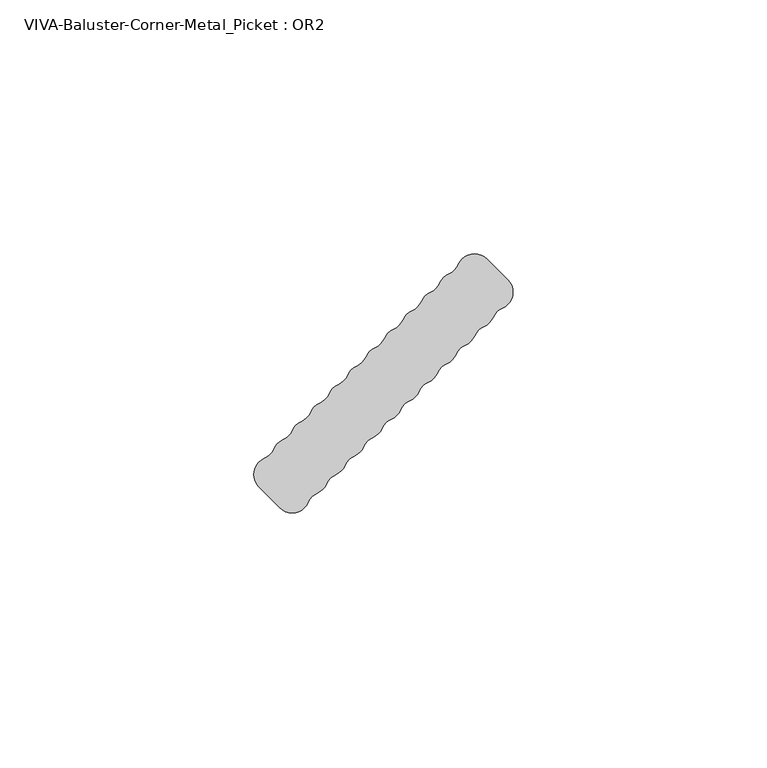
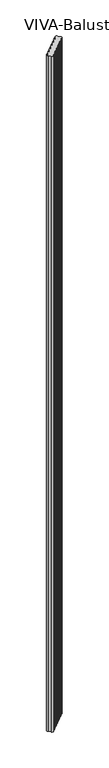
"""IFC4 building model written with IfcOpenShell, lengths in millimetres: railing geometry, VIVA-Baluster-Corner-Metal_Picket : OR2."""

from ifc_helpers import new_model, si_unit, frame, origin, place, context, project, spatial, polyline, circle_curve, source, transform, mapped, element, save
from ifc_brep_helpers import plane_surface, cylinder_surface, revolved_surface, advanced_brep


def viva_baluster_corner_metal_picket_or2_d11bb3fe(model_context):
    return source(origin(), model_context, "Body", "AdvancedBrep", [
        advanced_brep(
        [(54.5821964, 285.0019365, 1219.2), (48.9877423, 283.9151586, 1219.2), (47.16774, 282.0951563, 1219.2), (45.3477377, 280.275154, 1219.2), (43.5277353, 278.4551517, 1219.2), (41.707733, 276.6351493, 1219.2), (39.8877307, 274.815147, 1219.2), (38.0677284, 272.9951447, 1219.2), (36.2477261, 271.1751424, 1219.2), (34.4277238, 269.3551401, 1219.2), (32.6077214, 267.5351378, 1219.2), (30.7877191, 265.7151354, 1219.2), (28.9677168, 263.8951331, 1219.2), (27.1477145, 262.0751308, 1219.2), (25.3277122, 260.2551285, 1219.2), (23.5077099, 258.4351262, 1219.2), (21.6877075, 256.6151239, 1219.2), (19.8677052, 254.7951215, 1219.2), (18.0477029, 252.9751192, 1219.2), (16.2277006, 251.1551169, 1219.2), (14.4076983, 249.3351146, 1219.2), (12.587696, 247.5151123, 1219.2), (10.7676936, 245.69511, 1219.2), (9.6809158, 240.1006559, 1219.2), (13.7999423, 235.9816294, 1219.2), (19.3943964, 237.0684072, 1219.2), (21.2143987, 238.8884095, 1219.2), (23.034401, 240.7084119, 1219.2), (24.8544033, 242.5284142, 1219.2), (26.6744056, 244.3484165, 1219.2), (28.494408, 246.1684188, 1219.2), (30.3144103, 247.9884211, 1219.2), (32.1344126, 249.8084234, 1219.2), (33.9544149, 251.6284258, 1219.2), (35.7744172, 253.4484281, 1219.2), (37.5944195, 255.2684304, 1219.2), (39.4144219, 257.0884327, 1219.2), (41.2344242, 258.908435, 1219.2), (43.0544265, 260.7284373, 1219.2), (44.8744288, 262.5484397, 1219.2), (46.6944311, 264.368442, 1219.2), (48.5144334, 266.1884443, 1219.2), (50.3344358, 268.0084466, 1219.2), (52.1544381, 269.8284489, 1219.2), (53.9744404, 271.6484513, 1219.2), (55.7944427, 273.4684536, 1219.2), (57.614445, 275.2884559, 1219.2), (58.7012229, 280.88291, 1219.2), (54.5821964, 285.0019365, -245.8945017), (58.7012229, 280.88291, -245.8945017), (57.614445, 275.2884559, -245.8945017), (55.7944427, 273.4684536, -245.8945017), (53.9744404, 271.6484513, -245.8945017), (52.1544381, 269.8284489, -245.8945017), (50.3344358, 268.0084466, -245.8945017), (48.5144334, 266.1884443, -245.8945017), (46.6944311, 264.368442, -245.8945017), (44.8744288, 262.5484397, -245.8945017), (43.0544265, 260.7284373, -245.8945017), (41.2344242, 258.908435, -245.8945017), (39.4144219, 257.0884327, -245.8945017), (37.5944195, 255.2684304, -245.8945017), (35.7744172, 253.4484281, -245.8945017), (33.9544149, 251.6284258, -245.8945017), (32.1344126, 249.8084234, -245.8945017), (30.3144103, 247.9884211, -245.8945017), (28.494408, 246.1684188, -245.8945017), (26.6744056, 244.3484165, -245.8945017), (24.8544033, 242.5284142, -245.8945017), (23.034401, 240.7084119, -245.8945017), (21.2143987, 238.8884095, -245.8945017), (19.3943964, 237.0684072, -245.8945017), (13.7999423, 235.9816294, -245.8945017), (9.6809158, 240.1006559, -245.8945017), (10.7676936, 245.69511, -245.8945017), (12.587696, 247.5151123, -245.8945017), (14.4076983, 249.3351146, -245.8945017), (16.2277006, 251.1551169, -245.8945017), (18.0477029, 252.9751192, -245.8945017), (19.8677052, 254.7951215, -245.8945017), (21.6877075, 256.6151239, -245.8945017), (23.5077099, 258.4351262, -245.8945017), (25.3277122, 260.2551285, -245.8945017), (27.1477145, 262.0751308, -245.8945017), (28.9677168, 263.8951331, -245.8945017), (30.7877191, 265.7151354, -245.8945017), (32.6077214, 267.5351378, -245.8945017), (34.4277238, 269.3551401, -245.8945017), (36.2477261, 271.1751424, -245.8945017), (38.0677284, 272.9951447, -245.8945017), (39.8877307, 274.815147, -245.8945017), (41.707733, 276.6351493, -245.8945017), (43.5277353, 278.4551517, -245.8945017), (45.3477377, 280.275154, -245.8945017), (47.16774, 282.0951563, -245.8945017), (48.9877423, 283.9151586, -245.8945017)],
        [
            (0, 1, circle_curve(frame((52.1515816, 282.5713217, 1219.2), z_axis=(0.0, 0.0, 1.0), x_axis=(1.0, 0.0, 0.0)), 3.4374084)),
            (1, 2, circle_curve(frame((45.823903, 285.2589956, 1219.2), z_axis=(0.0, 0.0, -1.0), x_axis=(1.0, 0.0, 0.0)), 3.4374084)),
            (2, 3, circle_curve(frame((48.5115769, 278.931317, 1219.2), z_axis=(0.0, 0.0, 1.0), x_axis=(1.0, 0.0, 0.0)), 3.4374084)),
            (3, 4, circle_curve(frame((42.1838984, 281.6189909, 1219.2), z_axis=(0.0, 0.0, -1.0), x_axis=(1.0, 0.0, 0.0)), 3.4374084)),
            (4, 5, circle_curve(frame((44.8715723, 275.2913124, 1219.2), z_axis=(0.0, 0.0, 1.0), x_axis=(1.0, 0.0, 0.0)), 3.4374084)),
            (5, 6, circle_curve(frame((38.5438938, 277.9789863, 1219.2), z_axis=(0.0, 0.0, -1.0), x_axis=(1.0, 0.0, 0.0)), 3.4374084)),
            (6, 7, circle_curve(frame((41.2315677, 271.6513078, 1219.2), z_axis=(0.0, 0.0, 1.0), x_axis=(1.0, 0.0, 0.0)), 3.4374084)),
            (7, 8, circle_curve(frame((34.9038891, 274.3389817, 1219.2), z_axis=(0.0, 0.0, -1.0), x_axis=(1.0, 0.0, 0.0)), 3.4374084)),
            (8, 9, circle_curve(frame((37.591563, 268.0113031, 1219.2), z_axis=(0.0, 0.0, 1.0), x_axis=(1.0, 0.0, 0.0)), 3.4374084)),
            (9, 10, circle_curve(frame((31.2638845, 270.698977, 1219.2), z_axis=(0.0, 0.0, -1.0), x_axis=(1.0, 0.0, 0.0)), 3.4374084)),
            (10, 11, circle_curve(frame((33.9515584, 264.3712985, 1219.2), z_axis=(0.0, 0.0, 1.0), x_axis=(1.0, 0.0, 0.0)), 3.4374084)),
            (11, 12, circle_curve(frame((27.6238798, 267.0589724, 1219.2), z_axis=(0.0, 0.0, -1.0), x_axis=(1.0, 0.0, 0.0)), 3.4374084)),
            (12, 13, circle_curve(frame((30.3115538, 260.7312939, 1219.2), z_axis=(0.0, 0.0, 1.0), x_axis=(1.0, 0.0, 0.0)), 3.4374084)),
            (13, 14, circle_curve(frame((23.9838752, 263.4189678, 1219.2), z_axis=(0.0, 0.0, -1.0), x_axis=(1.0, 0.0, 0.0)), 3.4374084)),
            (14, 15, circle_curve(frame((26.6715491, 257.0912892, 1219.2), z_axis=(0.0, 0.0, 1.0), x_axis=(1.0, 0.0, 0.0)), 3.4374084)),
            (15, 16, circle_curve(frame((20.3438706, 259.7789631, 1219.2), z_axis=(0.0, 0.0, -1.0), x_axis=(1.0, 0.0, 0.0)), 3.4374084)),
            (16, 17, circle_curve(frame((23.0315445, 253.4512846, 1219.2), z_axis=(0.0, 0.0, 1.0), x_axis=(1.0, 0.0, 0.0)), 3.4374084)),
            (17, 18, circle_curve(frame((16.7038659, 256.1389585, 1219.2), z_axis=(0.0, 0.0, -1.0), x_axis=(1.0, 0.0, 0.0)), 3.4374084)),
            (18, 19, circle_curve(frame((19.3915399, 249.8112799, 1219.2), z_axis=(0.0, 0.0, 1.0), x_axis=(1.0, 0.0, 0.0)), 3.4374084)),
            (19, 20, circle_curve(frame((13.0638613, 252.4989539, 1219.2), z_axis=(0.0, 0.0, -1.0), x_axis=(1.0, 0.0, 0.0)), 3.4374084)),
            (20, 21, circle_curve(frame((15.7515352, 246.1712753, 1219.2), z_axis=(0.0, 0.0, 1.0), x_axis=(1.0, 0.0, 0.0)), 3.4374084)),
            (21, 22, circle_curve(frame((9.4238567, 248.8589492, 1219.2), z_axis=(0.0, 0.0, -1.0), x_axis=(1.0, 0.0, 0.0)), 3.4374084)),
            (22, 23, circle_curve(frame((12.1115306, 242.5312707, 1219.2), z_axis=(0.0, 0.0, 1.0), x_axis=(1.0, 0.0, 0.0)), 3.4374084)),
            (23, 24),
            (24, 25, circle_curve(frame((16.2305571, 238.4122442, 1219.2), z_axis=(0.0, 0.0, 1.0), x_axis=(1.0, 0.0, 0.0)), 3.4374084)),
            (25, 26, circle_curve(frame((22.5582356, 235.7245703, 1219.2), z_axis=(0.0, 0.0, -1.0), x_axis=(1.0, 0.0, 0.0)), 3.4374084)),
            (26, 27, circle_curve(frame((19.8705617, 242.0522488, 1219.2), z_axis=(0.0, 0.0, 1.0), x_axis=(1.0, 0.0, 0.0)), 3.4374084)),
            (27, 28, circle_curve(frame((26.1982403, 239.3645749, 1219.2), z_axis=(0.0, 0.0, -1.0), x_axis=(1.0, 0.0, 0.0)), 3.4374084)),
            (28, 29, circle_curve(frame((23.5105664, 245.6922535, 1219.2), z_axis=(0.0, 0.0, 1.0), x_axis=(1.0, 0.0, 0.0)), 3.4374084)),
            (29, 30, circle_curve(frame((29.8382449, 243.0045795, 1219.2), z_axis=(0.0, 0.0, -1.0), x_axis=(1.0, 0.0, 0.0)), 3.4374084)),
            (30, 31, circle_curve(frame((27.150571, 249.3322581, 1219.2), z_axis=(0.0, 0.0, 1.0), x_axis=(1.0, 0.0, 0.0)), 3.4374084)),
            (31, 32, circle_curve(frame((33.4782495, 246.6445842, 1219.2), z_axis=(0.0, 0.0, -1.0), x_axis=(1.0, 0.0, 0.0)), 3.4374084)),
            (32, 33, circle_curve(frame((30.7905756, 252.9722627, 1219.2), z_axis=(0.0, 0.0, 1.0), x_axis=(1.0, 0.0, 0.0)), 3.4374084)),
            (33, 34, circle_curve(frame((37.1182542, 250.2845888, 1219.2), z_axis=(0.0, 0.0, -1.0), x_axis=(1.0, 0.0, 0.0)), 3.4374084)),
            (34, 35, circle_curve(frame((34.4305803, 256.6122674, 1219.2), z_axis=(0.0, 0.0, 1.0), x_axis=(1.0, 0.0, 0.0)), 3.4374084)),
            (35, 36, circle_curve(frame((40.7582588, 253.9245934, 1219.2), z_axis=(0.0, 0.0, -1.0), x_axis=(1.0, 0.0, 0.0)), 3.4374084)),
            (36, 37, circle_curve(frame((38.0705849, 260.252272, 1219.2), z_axis=(0.0, 0.0, 1.0), x_axis=(1.0, 0.0, 0.0)), 3.4374084)),
            (37, 38, circle_curve(frame((44.3982634, 257.5645981, 1219.2), z_axis=(0.0, 0.0, -1.0), x_axis=(1.0, 0.0, 0.0)), 3.4374084)),
            (38, 39, circle_curve(frame((41.7105895, 263.8922766, 1219.2), z_axis=(0.0, 0.0, 1.0), x_axis=(1.0, 0.0, 0.0)), 3.4374084)),
            (39, 40, circle_curve(frame((48.0382681, 261.2046027, 1219.2), z_axis=(0.0, 0.0, -1.0), x_axis=(1.0, 0.0, 0.0)), 3.4374084)),
            (40, 41, circle_curve(frame((45.3505942, 267.5322813, 1219.2), z_axis=(0.0, 0.0, 1.0), x_axis=(1.0, 0.0, 0.0)), 3.4374084)),
            (41, 42, circle_curve(frame((51.6782727, 264.8446073, 1219.2), z_axis=(0.0, 0.0, -1.0), x_axis=(1.0, 0.0, 0.0)), 3.4374084)),
            (42, 43, circle_curve(frame((48.9905988, 271.1722859, 1219.2), z_axis=(0.0, 0.0, 1.0), x_axis=(1.0, 0.0, 0.0)), 3.4374084)),
            (43, 44, circle_curve(frame((55.3182774, 268.484612, 1219.2), z_axis=(0.0, 0.0, -1.0), x_axis=(1.0, 0.0, 0.0)), 3.4374084)),
            (44, 45, circle_curve(frame((52.6306034, 274.8122905, 1219.2), z_axis=(0.0, 0.0, 1.0), x_axis=(1.0, 0.0, 0.0)), 3.4374084)),
            (45, 46, circle_curve(frame((58.958282, 272.1246166, 1219.2), z_axis=(0.0, 0.0, -1.0), x_axis=(1.0, 0.0, 0.0)), 3.4374084)),
            (46, 47, circle_curve(frame((56.2706081, 278.4522952, 1219.2), z_axis=(0.0, 0.0, 1.0), x_axis=(1.0, 0.0, 0.0)), 3.4374084)),
            (47, 0),
            (48, 49),
            (49, 50, circle_curve(frame((56.2706081, 278.4522952, -245.8945017), z_axis=(0.0, 0.0, -1.0), x_axis=(1.0, 0.0, 0.0)), 3.4374084)),
            (50, 51, circle_curve(frame((58.958282, 272.1246166, -245.8945017), z_axis=(0.0, 0.0, 1.0), x_axis=(1.0, 0.0, 0.0)), 3.4374084)),
            (51, 52, circle_curve(frame((52.6306034, 274.8122905, -245.8945017), z_axis=(0.0, 0.0, -1.0), x_axis=(1.0, 0.0, 0.0)), 3.4374084)),
            (52, 53, circle_curve(frame((55.3182774, 268.484612, -245.8945017), z_axis=(0.0, 0.0, 1.0), x_axis=(1.0, 0.0, 0.0)), 3.4374084)),
            (53, 54, circle_curve(frame((48.9905988, 271.1722859, -245.8945017), z_axis=(0.0, 0.0, -1.0), x_axis=(1.0, 0.0, 0.0)), 3.4374084)),
            (54, 55, circle_curve(frame((51.6782727, 264.8446073, -245.8945017), z_axis=(0.0, 0.0, 1.0), x_axis=(1.0, 0.0, 0.0)), 3.4374084)),
            (55, 56, circle_curve(frame((45.3505942, 267.5322813, -245.8945017), z_axis=(0.0, 0.0, -1.0), x_axis=(1.0, 0.0, 0.0)), 3.4374084)),
            (56, 57, circle_curve(frame((48.0382681, 261.2046027, -245.8945017), z_axis=(0.0, 0.0, 1.0), x_axis=(1.0, 0.0, 0.0)), 3.4374084)),
            (57, 58, circle_curve(frame((41.7105895, 263.8922766, -245.8945017), z_axis=(0.0, 0.0, -1.0), x_axis=(1.0, 0.0, 0.0)), 3.4374084)),
            (58, 59, circle_curve(frame((44.3982634, 257.5645981, -245.8945017), z_axis=(0.0, 0.0, 1.0), x_axis=(1.0, 0.0, 0.0)), 3.4374084)),
            (59, 60, circle_curve(frame((38.0705849, 260.252272, -245.8945017), z_axis=(0.0, 0.0, -1.0), x_axis=(1.0, 0.0, 0.0)), 3.4374084)),
            (60, 61, circle_curve(frame((40.7582588, 253.9245934, -245.8945017), z_axis=(0.0, 0.0, 1.0), x_axis=(1.0, 0.0, 0.0)), 3.4374084)),
            (61, 62, circle_curve(frame((34.4305803, 256.6122674, -245.8945017), z_axis=(0.0, 0.0, -1.0), x_axis=(1.0, 0.0, 0.0)), 3.4374084)),
            (62, 63, circle_curve(frame((37.1182542, 250.2845888, -245.8945017), z_axis=(0.0, 0.0, 1.0), x_axis=(1.0, 0.0, 0.0)), 3.4374084)),
            (63, 64, circle_curve(frame((30.7905756, 252.9722627, -245.8945017), z_axis=(0.0, 0.0, -1.0), x_axis=(1.0, 0.0, 0.0)), 3.4374084)),
            (64, 65, circle_curve(frame((33.4782495, 246.6445842, -245.8945017), z_axis=(0.0, 0.0, 1.0), x_axis=(1.0, 0.0, 0.0)), 3.4374084)),
            (65, 66, circle_curve(frame((27.150571, 249.3322581, -245.8945017), z_axis=(0.0, 0.0, -1.0), x_axis=(1.0, 0.0, 0.0)), 3.4374084)),
            (66, 67, circle_curve(frame((29.8382449, 243.0045795, -245.8945017), z_axis=(0.0, 0.0, 1.0), x_axis=(1.0, 0.0, 0.0)), 3.4374084)),
            (67, 68, circle_curve(frame((23.5105664, 245.6922535, -245.8945017), z_axis=(0.0, 0.0, -1.0), x_axis=(1.0, 0.0, 0.0)), 3.4374084)),
            (68, 69, circle_curve(frame((26.1982403, 239.3645749, -245.8945017), z_axis=(0.0, 0.0, 1.0), x_axis=(1.0, 0.0, 0.0)), 3.4374084)),
            (69, 70, circle_curve(frame((19.8705617, 242.0522488, -245.8945017), z_axis=(0.0, 0.0, -1.0), x_axis=(1.0, 0.0, 0.0)), 3.4374084)),
            (70, 71, circle_curve(frame((22.5582356, 235.7245703, -245.8945017), z_axis=(0.0, 0.0, 1.0), x_axis=(1.0, 0.0, 0.0)), 3.4374084)),
            (71, 72, circle_curve(frame((16.2305571, 238.4122442, -245.8945017), z_axis=(0.0, 0.0, -1.0), x_axis=(1.0, 0.0, 0.0)), 3.4374084)),
            (72, 73),
            (73, 74, circle_curve(frame((12.1115306, 242.5312707, -245.8945017), z_axis=(0.0, 0.0, -1.0), x_axis=(1.0, 0.0, 0.0)), 3.4374084)),
            (74, 75, circle_curve(frame((9.4238567, 248.8589492, -245.8945017), z_axis=(0.0, 0.0, 1.0), x_axis=(1.0, 0.0, 0.0)), 3.4374084)),
            (75, 76, circle_curve(frame((15.7515352, 246.1712753, -245.8945017), z_axis=(0.0, 0.0, -1.0), x_axis=(1.0, 0.0, 0.0)), 3.4374084)),
            (76, 77, circle_curve(frame((13.0638613, 252.4989539, -245.8945017), z_axis=(0.0, 0.0, 1.0), x_axis=(1.0, 0.0, 0.0)), 3.4374084)),
            (77, 78, circle_curve(frame((19.3915399, 249.8112799, -245.8945017), z_axis=(0.0, 0.0, -1.0), x_axis=(1.0, 0.0, 0.0)), 3.4374084)),
            (78, 79, circle_curve(frame((16.7038659, 256.1389585, -245.8945017), z_axis=(0.0, 0.0, 1.0), x_axis=(1.0, 0.0, 0.0)), 3.4374084)),
            (79, 80, circle_curve(frame((23.0315445, 253.4512846, -245.8945017), z_axis=(0.0, 0.0, -1.0), x_axis=(1.0, 0.0, 0.0)), 3.4374084)),
            (80, 81, circle_curve(frame((20.3438706, 259.7789631, -245.8945017), z_axis=(0.0, 0.0, 1.0), x_axis=(1.0, 0.0, 0.0)), 3.4374084)),
            (81, 82, circle_curve(frame((26.6715491, 257.0912892, -245.8945017), z_axis=(0.0, 0.0, -1.0), x_axis=(1.0, 0.0, 0.0)), 3.4374084)),
            (82, 83, circle_curve(frame((23.9838752, 263.4189678, -245.8945017), z_axis=(0.0, 0.0, 1.0), x_axis=(1.0, 0.0, 0.0)), 3.4374084)),
            (83, 84, circle_curve(frame((30.3115538, 260.7312939, -245.8945017), z_axis=(0.0, 0.0, -1.0), x_axis=(1.0, 0.0, 0.0)), 3.4374084)),
            (84, 85, circle_curve(frame((27.6238798, 267.0589724, -245.8945017), z_axis=(0.0, 0.0, 1.0), x_axis=(1.0, 0.0, 0.0)), 3.4374084)),
            (85, 86, circle_curve(frame((33.9515584, 264.3712985, -245.8945017), z_axis=(0.0, 0.0, -1.0), x_axis=(1.0, 0.0, 0.0)), 3.4374084)),
            (86, 87, circle_curve(frame((31.2638845, 270.698977, -245.8945017), z_axis=(0.0, 0.0, 1.0), x_axis=(1.0, 0.0, 0.0)), 3.4374084)),
            (87, 88, circle_curve(frame((37.591563, 268.0113031, -245.8945017), z_axis=(0.0, 0.0, -1.0), x_axis=(1.0, 0.0, 0.0)), 3.4374084)),
            (88, 89, circle_curve(frame((34.9038891, 274.3389817, -245.8945017), z_axis=(0.0, 0.0, 1.0), x_axis=(1.0, 0.0, 0.0)), 3.4374084)),
            (89, 90, circle_curve(frame((41.2315677, 271.6513078, -245.8945017), z_axis=(0.0, 0.0, -1.0), x_axis=(1.0, 0.0, 0.0)), 3.4374084)),
            (90, 91, circle_curve(frame((38.5438938, 277.9789863, -245.8945017), z_axis=(0.0, 0.0, 1.0), x_axis=(1.0, 0.0, 0.0)), 3.4374084)),
            (91, 92, circle_curve(frame((44.8715723, 275.2913124, -245.8945017), z_axis=(0.0, 0.0, -1.0), x_axis=(1.0, 0.0, 0.0)), 3.4374084)),
            (92, 93, circle_curve(frame((42.1838984, 281.6189909, -245.8945017), z_axis=(0.0, 0.0, 1.0), x_axis=(1.0, 0.0, 0.0)), 3.4374084)),
            (93, 94, circle_curve(frame((48.5115769, 278.931317, -245.8945017), z_axis=(0.0, 0.0, -1.0), x_axis=(1.0, 0.0, 0.0)), 3.4374084)),
            (94, 95, circle_curve(frame((45.823903, 285.2589956, -245.8945017), z_axis=(0.0, 0.0, 1.0), x_axis=(1.0, 0.0, 0.0)), 3.4374084)),
            (95, 48, circle_curve(frame((52.1515816, 282.5713217, -245.8945017), z_axis=(0.0, 0.0, -1.0), x_axis=(1.0, 0.0, 0.0)), 3.4374084)),
            (0, 48),
            (95, 1),
            (94, 2),
            (93, 3),
            (92, 4),
            (91, 5),
            (90, 6),
            (89, 7),
            (88, 8),
            (87, 9),
            (86, 10),
            (85, 11),
            (84, 12),
            (83, 13),
            (82, 14),
            (81, 15),
            (80, 16),
            (79, 17),
            (78, 18),
            (77, 19),
            (76, 20),
            (75, 21),
            (74, 22),
            (73, 23),
            (72, 24),
            (71, 25),
            (70, 26),
            (69, 27),
            (68, 28),
            (67, 29),
            (66, 30),
            (65, 31),
            (64, 32),
            (63, 33),
            (62, 34),
            (61, 35),
            (60, 36),
            (59, 37),
            (58, 38),
            (57, 39),
            (56, 40),
            (55, 41),
            (54, 42),
            (53, 43),
            (52, 44),
            (51, 45),
            (50, 46),
            (49, 47),
        ],
        [
            plane_surface(frame((55.58899, 282.5713217, 1219.2), z_axis=(0.0, 0.0, 1.0), x_axis=(0.0, 1.0, 0.0))),
            plane_surface(frame((55.58899, 282.5713217, -245.8945017), z_axis=(0.0, 0.0, -1.0), x_axis=(0.0, -1.0, 0.0))),
            cylinder_surface(frame((52.1515816, 282.5713217, -245.8945017), z_axis=(0.0, 0.0, 1.0), x_axis=(1.0, 0.0, 0.0)), 3.4374084),
            revolved_surface(polyline([(49.261311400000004, 285.2589956, -245.8945017), (49.261311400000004, 285.2589956, 1219.2)]), (45.823903, 285.2589956, -245.8945017), (0.0, 0.0, -1.0)),
            cylinder_surface(frame((48.5115769, 278.931317, -245.8945017), z_axis=(0.0, 0.0, 1.0), x_axis=(1.0, 0.0, 0.0)), 3.4374084),
            revolved_surface(polyline([(45.6213068, 281.6189909, -245.8945017), (45.6213068, 281.6189909, 1219.2)]), (42.1838984, 281.6189909, -245.8945017), (0.0, 0.0, -1.0)),
            cylinder_surface(frame((44.8715723, 275.2913124, -245.8945017), z_axis=(0.0, 0.0, 1.0), x_axis=(1.0, 0.0, 0.0)), 3.4374084),
            revolved_surface(polyline([(41.9813022, 277.9789863, -245.8945017), (41.9813022, 277.9789863, 1219.2)]), (38.5438938, 277.9789863, -245.8945017), (0.0, 0.0, -1.0)),
            cylinder_surface(frame((41.2315677, 271.6513078, -245.8945017), z_axis=(0.0, 0.0, 1.0), x_axis=(1.0, 0.0, 0.0)), 3.4374084),
            revolved_surface(polyline([(38.3412975, 274.3389817, -245.8945017), (38.3412975, 274.3389817, 1219.2)]), (34.9038891, 274.3389817, -245.8945017), (0.0, 0.0, -1.0)),
            cylinder_surface(frame((37.591563, 268.0113031, -245.8945017), z_axis=(0.0, 0.0, 1.0), x_axis=(1.0, 0.0, 0.0)), 3.4374084),
            revolved_surface(polyline([(34.7012929, 270.698977, -245.8945017), (34.7012929, 270.698977, 1219.2)]), (31.2638845, 270.698977, -245.8945017), (0.0, 0.0, -1.0)),
            cylinder_surface(frame((33.9515584, 264.3712985, -245.8945017), z_axis=(0.0, 0.0, 1.0), x_axis=(1.0, 0.0, 0.0)), 3.4374084),
            revolved_surface(polyline([(31.0612882, 267.0589724, -245.8945017), (31.0612882, 267.0589724, 1219.2)]), (27.6238798, 267.0589724, -245.8945017), (0.0, 0.0, -1.0)),
            cylinder_surface(frame((30.3115538, 260.7312939, -245.8945017), z_axis=(0.0, 0.0, 1.0), x_axis=(1.0, 0.0, 0.0)), 3.4374084),
            revolved_surface(polyline([(27.4212836, 263.4189678, -245.8945017), (27.4212836, 263.4189678, 1219.2)]), (23.9838752, 263.4189678, -245.8945017), (0.0, 0.0, -1.0)),
            cylinder_surface(frame((26.6715491, 257.0912892, -245.8945017), z_axis=(0.0, 0.0, 1.0), x_axis=(1.0, 0.0, 0.0)), 3.4374084),
            revolved_surface(polyline([(23.781278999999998, 259.7789631, -245.8945017), (23.781278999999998, 259.7789631, 1219.2)]), (20.3438706, 259.7789631, -245.8945017), (0.0, 0.0, -1.0)),
            cylinder_surface(frame((23.0315445, 253.4512846, -245.8945017), z_axis=(0.0, 0.0, 1.0), x_axis=(1.0, 0.0, 0.0)), 3.4374084),
            revolved_surface(polyline([(20.1412743, 256.1389585, -245.8945017), (20.1412743, 256.1389585, 1219.2)]), (16.7038659, 256.1389585, -245.8945017), (0.0, 0.0, -1.0)),
            cylinder_surface(frame((19.3915399, 249.8112799, -245.8945017), z_axis=(0.0, 0.0, 1.0), x_axis=(1.0, 0.0, 0.0)), 3.4374084),
            revolved_surface(polyline([(16.501269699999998, 252.4989539, -245.8945017), (16.501269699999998, 252.4989539, 1219.2)]), (13.0638613, 252.4989539, -245.8945017), (0.0, 0.0, -1.0)),
            cylinder_surface(frame((15.7515352, 246.1712753, -245.8945017), z_axis=(0.0, 0.0, 1.0), x_axis=(1.0, 0.0, 0.0)), 3.4374084),
            revolved_surface(polyline([(12.8612651, 248.8589492, -245.8945017), (12.8612651, 248.8589492, 1219.2)]), (9.4238567, 248.8589492, -245.8945017), (0.0, 0.0, -1.0)),
            cylinder_surface(frame((12.1115306, 242.5312707, -245.8945017), z_axis=(0.0, 0.0, 1.0), x_axis=(1.0, 0.0, 0.0)), 3.4374084),
            plane_surface(frame((9.6809158, 240.1006559, 1219.2), z_axis=(-0.70710678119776, -0.7071067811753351, 0.0), x_axis=(0.0, 0.0, -1.0))),
            cylinder_surface(frame((16.2305571, 238.4122442, -245.8945017), z_axis=(0.0, 0.0, 1.0), x_axis=(1.0, 0.0, 0.0)), 3.4374084),
            revolved_surface(polyline([(25.995644, 235.7245703, -245.8945017), (25.995644, 235.7245703, 1219.2)]), (22.5582356, 235.7245703, -245.8945017), (0.0, 0.0, -1.0)),
            cylinder_surface(frame((19.8705617, 242.0522488, -245.8945017), z_axis=(0.0, 0.0, 1.0), x_axis=(1.0, 0.0, 0.0)), 3.4374084),
            revolved_surface(polyline([(29.635648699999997, 239.3645749, -245.8945017), (29.635648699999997, 239.3645749, 1219.2)]), (26.1982403, 239.3645749, -245.8945017), (0.0, 0.0, -1.0)),
            cylinder_surface(frame((23.5105664, 245.6922535, -245.8945017), z_axis=(0.0, 0.0, 1.0), x_axis=(1.0, 0.0, 0.0)), 3.4374084),
            revolved_surface(polyline([(33.2756533, 243.0045795, -245.8945017), (33.2756533, 243.0045795, 1219.2)]), (29.8382449, 243.0045795, -245.8945017), (0.0, 0.0, -1.0)),
            cylinder_surface(frame((27.150571, 249.3322581, -245.8945017), z_axis=(0.0, 0.0, 1.0), x_axis=(1.0, 0.0, 0.0)), 3.4374084),
            revolved_surface(polyline([(36.9156579, 246.6445842, -245.8945017), (36.9156579, 246.6445842, 1219.2)]), (33.4782495, 246.6445842, -245.8945017), (0.0, 0.0, -1.0)),
            cylinder_surface(frame((30.7905756, 252.9722627, -245.8945017), z_axis=(0.0, 0.0, 1.0), x_axis=(1.0, 0.0, 0.0)), 3.4374084),
            revolved_surface(polyline([(40.555662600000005, 250.2845888, -245.8945017), (40.555662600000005, 250.2845888, 1219.2)]), (37.1182542, 250.2845888, -245.8945017), (0.0, 0.0, -1.0)),
            cylinder_surface(frame((34.4305803, 256.6122674, -245.8945017), z_axis=(0.0, 0.0, 1.0), x_axis=(1.0, 0.0, 0.0)), 3.4374084),
            revolved_surface(polyline([(44.1956672, 253.9245934, -245.8945017), (44.1956672, 253.9245934, 1219.2)]), (40.7582588, 253.9245934, -245.8945017), (0.0, 0.0, -1.0)),
            cylinder_surface(frame((38.0705849, 260.252272, -245.8945017), z_axis=(0.0, 0.0, 1.0), x_axis=(1.0, 0.0, 0.0)), 3.4374084),
            revolved_surface(polyline([(47.8356718, 257.5645981, -245.8945017), (47.8356718, 257.5645981, 1219.2)]), (44.3982634, 257.5645981, -245.8945017), (0.0, 0.0, -1.0)),
            cylinder_surface(frame((41.7105895, 263.8922766, -245.8945017), z_axis=(0.0, 0.0, 1.0), x_axis=(1.0, 0.0, 0.0)), 3.4374084),
            revolved_surface(polyline([(51.475676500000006, 261.2046027, -245.8945017), (51.475676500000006, 261.2046027, 1219.2)]), (48.0382681, 261.2046027, -245.8945017), (0.0, 0.0, -1.0)),
            cylinder_surface(frame((45.3505942, 267.5322813, -245.8945017), z_axis=(0.0, 0.0, 1.0), x_axis=(1.0, 0.0, 0.0)), 3.4374084),
            revolved_surface(polyline([(55.1156811, 264.8446073, -245.8945017), (55.1156811, 264.8446073, 1219.2)]), (51.6782727, 264.8446073, -245.8945017), (0.0, 0.0, -1.0)),
            cylinder_surface(frame((48.9905988, 271.1722859, -245.8945017), z_axis=(0.0, 0.0, 1.0), x_axis=(1.0, 0.0, 0.0)), 3.4374084),
            revolved_surface(polyline([(58.7556858, 268.484612, -245.8945017), (58.7556858, 268.484612, 1219.2)]), (55.3182774, 268.484612, -245.8945017), (0.0, 0.0, -1.0)),
            cylinder_surface(frame((52.6306034, 274.8122905, -245.8945017), z_axis=(0.0, 0.0, 1.0), x_axis=(1.0, 0.0, 0.0)), 3.4374084),
            revolved_surface(polyline([(62.3956904, 272.1246166, -245.8945017), (62.3956904, 272.1246166, 1219.2)]), (58.958282, 272.1246166, -245.8945017), (0.0, 0.0, -1.0)),
            cylinder_surface(frame((56.2706081, 278.4522952, -245.8945017), z_axis=(0.0, 0.0, 1.0), x_axis=(1.0, 0.0, 0.0)), 3.4374084),
            plane_surface(frame((58.7012229, 280.88291, 1219.2), z_axis=(0.7071067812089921, 0.707106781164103, 0.0), x_axis=(0.0, 0.0, -1.0))),
        ],
        [
            (0, [[1, 2, 3, 4, 5, 6, 7, 8, 9, 10, 11, 12, 13, 14, 15, 16, 17, 18, 19, 20, 21, 22, 23, 24, 25, 26, 27, 28, 29, 30, 31, 32, 33, 34, 35, 36, 37, 38, 39, 40, 41, 42, 43, 44, 45, 46, 47, 48]]),
            (1, [[49, 50, 51, 52, 53, 54, 55, 56, 57, 58, 59, 60, 61, 62, 63, 64, 65, 66, 67, 68, 69, 70, 71, 72, 73, 74, 75, 76, 77, 78, 79, 80, 81, 82, 83, 84, 85, 86, 87, 88, 89, 90, 91, 92, 93, 94, 95, 96]]),
            (2, [[-1, 97, -96, 98]]),
            (3, [[-2, -98, -95, 99]]),
            (4, [[-3, -99, -94, 100]]),
            (5, [[-4, -100, -93, 101]]),
            (6, [[-5, -101, -92, 102]]),
            (7, [[-6, -102, -91, 103]]),
            (8, [[-7, -103, -90, 104]]),
            (9, [[-8, -104, -89, 105]]),
            (10, [[-9, -105, -88, 106]]),
            (11, [[-10, -106, -87, 107]]),
            (12, [[-11, -107, -86, 108]]),
            (13, [[-12, -108, -85, 109]]),
            (14, [[-13, -109, -84, 110]]),
            (15, [[-14, -110, -83, 111]]),
            (16, [[-15, -111, -82, 112]]),
            (17, [[-16, -112, -81, 113]]),
            (18, [[-17, -113, -80, 114]]),
            (19, [[-18, -114, -79, 115]]),
            (20, [[-19, -115, -78, 116]]),
            (21, [[-20, -116, -77, 117]]),
            (22, [[-21, -117, -76, 118]]),
            (23, [[-22, -118, -75, 119]]),
            (24, [[-23, -119, -74, 120]]),
            (25, [[-24, -120, -73, 121]]),
            (26, [[-25, -121, -72, 122]]),
            (27, [[-26, -122, -71, 123]]),
            (28, [[-27, -123, -70, 124]]),
            (29, [[-28, -124, -69, 125]]),
            (30, [[-29, -125, -68, 126]]),
            (31, [[-30, -126, -67, 127]]),
            (32, [[-31, -127, -66, 128]]),
            (33, [[-32, -128, -65, 129]]),
            (34, [[-33, -129, -64, 130]]),
            (35, [[-34, -130, -63, 131]]),
            (36, [[-35, -131, -62, 132]]),
            (37, [[-36, -132, -61, 133]]),
            (38, [[-37, -133, -60, 134]]),
            (39, [[-38, -134, -59, 135]]),
            (40, [[-39, -135, -58, 136]]),
            (41, [[-40, -136, -57, 137]]),
            (42, [[-41, -137, -56, 138]]),
            (43, [[-42, -138, -55, 139]]),
            (44, [[-43, -139, -54, 140]]),
            (45, [[-44, -140, -53, 141]]),
            (46, [[-45, -141, -52, 142]]),
            (47, [[-46, -142, -51, 143]]),
            (48, [[-47, -143, -50, 144]]),
            (49, [[-48, -144, -49, -97]]),
        ],
    ),
    ])


if __name__ == "__main__":
    model = new_model("IFC4")
    model_context = context("Model", 3, world=origin())
    ifc_project = project(units=[si_unit("LENGTHUNIT", "METRE", prefix="MILLI")], contexts=[model_context])
    site = spatial("IfcSite", under=ifc_project)
    building = spatial("IfcBuilding", under=site)
    placement = place(None, origin())
    viva_baluster_corner_metal_picket_or2_shape = viva_baluster_corner_metal_picket_or2_d11bb3fe(model_context)
    element("IfcRailing", 1, ObjectType="VIVA-Baluster-Corner-Metal_Picket : OR2", at=placement, inside=building, context=model_context, shape_type="MappedRepresentation", body=[
        mapped(viva_baluster_corner_metal_picket_or2_shape, transform((0.0, 0.0, 0.0), x_axis=(1.0, 0.0, 0.0), y_axis=(0.0, 1.0, 0.0), z_axis=(0.0, 0.0, 1.0))),
    ])
    save(model, "model.ifc")
